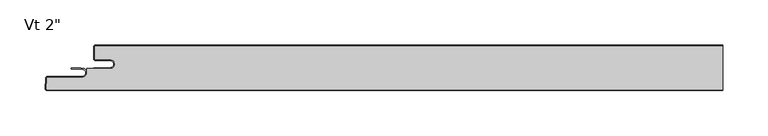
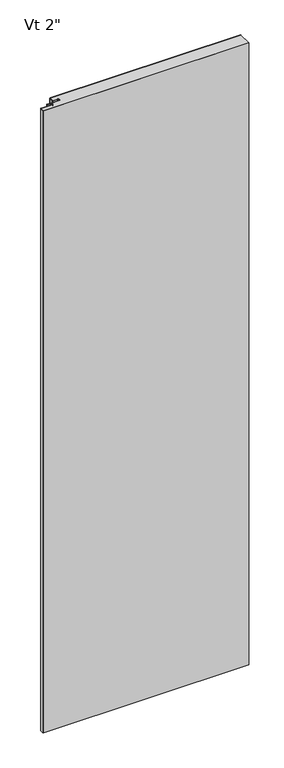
"""IFC4 building model written with IfcOpenShell, lengths in millimetres: plate geometry."""

from ifc_helpers import new_model, si_unit, point, frame_2d, origin, origin_with_axes, place, context, project, spatial, polyline, circle_curve, trimmed, segment, composite_curve, outline, extrude, source, transform, mapped, element, save


def plate_38ba23fe(model_context):
    return source(origin(), model_context, "Body", "SweptSolid", [
        extrude(outline(composite_curve([segment(polyline([(-345.8249998, -1.0), (348.9999998, -1.0), (348.9999998, -49.8), (-399.6719359, -49.8)]), True, "CONTINUOUS"), segment(trimmed(circle_curve(frame_2d((-399.6719359, -48.41875)), 1.38125), [point((-399.6719359, -49.8))], [point((-401.051293, -48.346461))], False, "CARTESIAN"), True, "CONTINUOUS"), segment(polyline([(-401.051293, -48.346461), (-400.4689115, -37.233961)]), True, "CONTINUOUS"), segment(trimmed(circle_curve(frame_2d((-399.0895545, -37.30625)), 1.38125), [point((-400.4689115, -37.233961))], [point((-399.0895545, -35.925))], False, "CARTESIAN"), True, "CONTINUOUS"), segment(polyline([(-399.0895545, -35.925), (-360.9062498, -35.925)]), True, "CONTINUOUS"), segment(trimmed(circle_curve(frame_2d((-360.9062498, -30.95625)), 4.96875), [point((-360.9062498, -35.925))], [point((-355.9374998, -30.95625))], True, "CARTESIAN"), True, "CONTINUOUS"), segment(polyline([(-355.9374998, -30.95625), (-355.9374998, -26.4), (-329.9499998, -26.4)]), True, "CONTINUOUS"), segment(trimmed(circle_curve(frame_2d((-329.9499998, -21.43125)), 4.96875), [point((-329.9499998, -26.4))], [point((-329.9499998, -16.4625))], True, "CARTESIAN"), True, "CONTINUOUS"), segment(polyline([(-329.9499998, -16.4625), (-345.8249998, -16.4625)]), True, "CONTINUOUS"), segment(trimmed(circle_curve(frame_2d((-345.8249998, -15.08125)), 1.38125), [point((-345.8249998, -16.4625))], [point((-347.2062498, -15.08125))], False, "CARTESIAN"), True, "CONTINUOUS"), segment(polyline([(-347.2062498, -15.08125), (-347.2062498, -2.38125)]), True, "CONTINUOUS"), segment(trimmed(circle_curve(frame_2d((-345.8249998, -2.38125)), 1.38125), [point((-347.2062498, -2.38125))], [point((-345.8249998, -1.0))], False, "CARTESIAN"), True, "CONTINUOUS")], self_intersect=False)), origin_with_axes(), (0.0, 0.0, 1.0), 2400.0),
        extrude(outline(composite_curve([segment(polyline([(-348.2062498, -25.4), (-329.9499998, -25.4)]), True, "CONTINUOUS"), segment(trimmed(circle_curve(frame_2d((-329.9499998, -21.43125)), 3.96875), [point((-329.9499998, -25.4))], [point((-329.9499998, -17.4625))], True, "CARTESIAN"), True, "CONTINUOUS"), segment(polyline([(-329.9499998, -17.4625), (-345.8249998, -17.4625)]), True, "CONTINUOUS"), segment(trimmed(circle_curve(frame_2d((-345.8249998, -15.08125)), 2.38125), [point((-345.8249998, -17.4625))], [point((-348.2062498, -15.08125))], False, "CARTESIAN"), True, "CONTINUOUS"), segment(polyline([(-348.2062498, -15.08125), (-348.2062498, -2.38125)]), True, "CONTINUOUS"), segment(trimmed(circle_curve(frame_2d((-345.8249998, -2.38125)), 2.38125), [point((-348.2062498, -2.38125))], [point((-345.8249998, 0.0))], False, "CARTESIAN"), True, "CONTINUOUS"), segment(polyline([(-345.8249998, 0.0), (348.9999998, 0.0), (348.9999998, -1.0), (-345.8249998, -1.0)]), True, "CONTINUOUS"), segment(trimmed(circle_curve(frame_2d((-345.8249998, -2.38125)), 1.38125), [point((-345.8249998, -1.0))], [point((-347.2062498, -2.38125))], True, "CARTESIAN"), True, "CONTINUOUS"), segment(polyline([(-347.2062498, -2.38125), (-347.2062498, -15.08125)]), True, "CONTINUOUS"), segment(trimmed(circle_curve(frame_2d((-345.8249998, -15.08125)), 1.38125), [point((-347.2062498, -15.08125))], [point((-345.8249998, -16.4625))], True, "CARTESIAN"), True, "CONTINUOUS"), segment(polyline([(-345.8249998, -16.4625), (-329.9499998, -16.4625)]), True, "CONTINUOUS"), segment(trimmed(circle_curve(frame_2d((-329.9499998, -21.43125)), 4.96875), [point((-329.9499998, -16.4625))], [point((-329.9499998, -26.4))], False, "CARTESIAN"), True, "CONTINUOUS"), segment(polyline([(-329.9499998, -26.4), (-348.2062498, -26.4), (-348.2062498, -25.4)]), True, "CONTINUOUS")], self_intersect=False)), origin_with_axes(), (0.0, 0.0, 1.0), 2400.0),
        extrude(outline(composite_curve([segment(polyline([(-372.2314548, -25.4), (-362.5080173, -25.4), (-362.5080173, -26.19375), (-360.9205173, -25.9875)]), True, "CONTINUOUS"), segment(trimmed(circle_curve(frame_2d((-360.9205173, -30.95625)), 4.96875), [point((-360.9205173, -25.9875))], [point((-360.9205173, -35.925))], False, "CARTESIAN"), True, "CONTINUOUS"), segment(polyline([(-360.9205173, -35.925), (-399.1038219, -35.925)]), True, "CONTINUOUS"), segment(trimmed(circle_curve(frame_2d((-399.1038219, -37.30625)), 1.38125), [point((-399.1038219, -35.925))], [point((-400.483179, -37.233961))], True, "CARTESIAN"), True, "CONTINUOUS"), segment(polyline([(-400.483179, -37.233961), (-401.0655604, -48.346461)]), True, "CONTINUOUS"), segment(trimmed(circle_curve(frame_2d((-399.6862034, -48.41875)), 1.38125), [point((-401.0655604, -48.346461))], [point((-399.6862034, -49.8))], True, "CARTESIAN"), True, "CONTINUOUS"), segment(polyline([(-399.6862034, -49.8), (348.9999998, -49.8), (348.9999998, -50.8), (-399.6862034, -50.8)]), True, "CONTINUOUS"), segment(trimmed(circle_curve(frame_2d((-399.6862034, -48.41875)), 2.38125), [point((-399.6862034, -50.8))], [point((-402.0641899, -48.294125))], False, "CARTESIAN"), True, "CONTINUOUS"), segment(polyline([(-402.0641899, -48.294125), (-401.4818085, -37.181625)]), True, "CONTINUOUS"), segment(trimmed(circle_curve(frame_2d((-399.1038219, -37.30625)), 2.38125), [point((-401.4818085, -37.181625))], [point((-399.1038219, -34.925))], False, "CARTESIAN"), True, "CONTINUOUS"), segment(polyline([(-399.1038219, -34.925), (-360.9205173, -34.925)]), True, "CONTINUOUS"), segment(trimmed(circle_curve(frame_2d((-360.9205173, -30.95625)), 3.96875), [point((-360.9205173, -34.925))], [point((-360.9205173, -26.9875))], True, "CARTESIAN"), True, "CONTINUOUS"), segment(polyline([(-360.9205173, -26.9875), (-372.2314548, -26.9875)]), True, "CONTINUOUS"), segment(trimmed(circle_curve(frame_2d((-372.2314548, -26.19375)), 0.79375), [point((-372.2314548, -26.9875))], [point((-372.2314548, -25.4))], False, "CARTESIAN"), True, "CONTINUOUS")], self_intersect=False)), origin_with_axes(), (0.0, 0.0, 1.0), 2400.0),
    ])


if __name__ == "__main__":
    model = new_model("IFC4")
    model_context = context("Model", 3, world=origin())
    ifc_project = project(units=[si_unit("LENGTHUNIT", "METRE", prefix="MILLI")], contexts=[model_context])
    site = spatial("IfcSite", under=ifc_project)
    building = spatial("IfcBuilding", under=site)
    placement = place(None, origin())
    plate_shape = plate_38ba23fe(model_context)
    element("IfcPlate", 1, ObjectType="KIP-30-DWTR-R19-CP-Vt-F : Vt 2\"", at=placement, inside=building, context=model_context, shape_type="MappedRepresentation", body=[
        mapped(plate_shape, transform((0.0, 0.0, 0.0), x_axis=(1.0, 0.0, 0.0), y_axis=(0.0, 1.0, 0.0), z_axis=(0.0, 0.0, 1.0))),
    ])
    save(model, "model.ifc")
